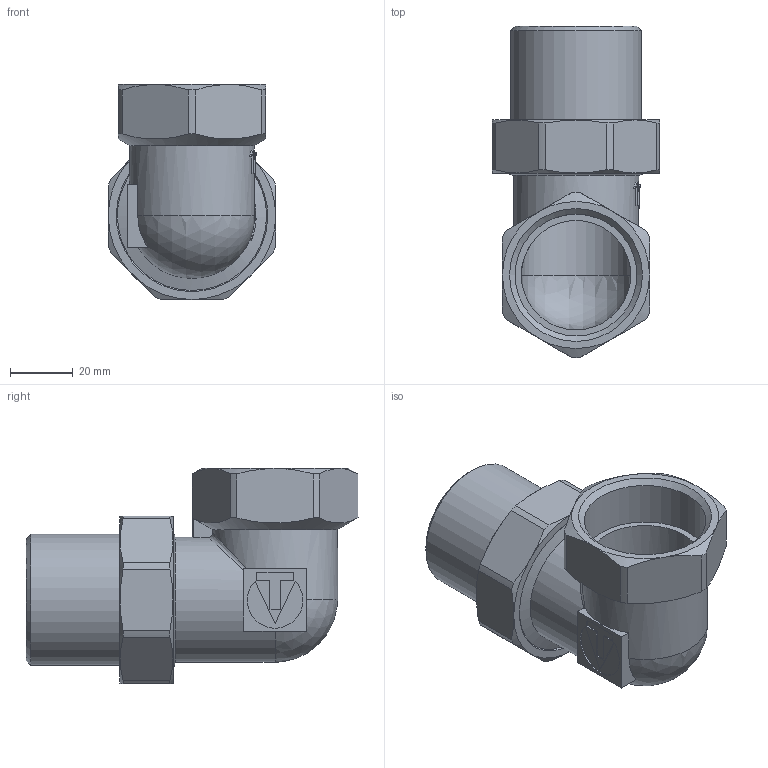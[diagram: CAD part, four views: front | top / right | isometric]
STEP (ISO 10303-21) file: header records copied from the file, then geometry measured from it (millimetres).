
FILE_DESCRIPTION(('STEP AP203'), '1');
FILE_NAME('覆.302635.006.000 捘 - VTr.098.N.0007', '2024-06-24T10:50:39', ('Boss'), (''), 'C3D Converter', 'C3D Toolkit', '');
FILE_SCHEMA(('CONFIG_CONTROL_DESIGN'));
Length unit declared in the file: millimetre
Products named in the file (1): ВР.302635.006.000 СБ
Bounding box: 53.5 x 106.13 x 68.75 mm (x, y, z)
Volume: 72405 mm3; surface area: 37840.1 mm2
Topology: 1 solids, 2 shells, 313 faces, 839 edges, 549 vertices
Faces by surface type: extrusion 126, plane 111, cylinder 42, cone 27, torus 4, sphere 2, bspline 1
Full cylindrical faces by diameter (mm): 32 x1, 35 x2, 38.953 x1, 39 x1, 40 x1, 41.91 x1, 42.1 x1, 44.5 x1, 45 x1
Entity records: 13379 total; most frequent: CARTESIAN_POINT 6389, ORIENTED_EDGE 1624, DIRECTION 1035, EDGE_CURVE 812, VERTEX_POINT 549, B_SPLINE_CURVE_WITH_KNOTS 430, VECTOR 429, EDGE_LOOP 363
